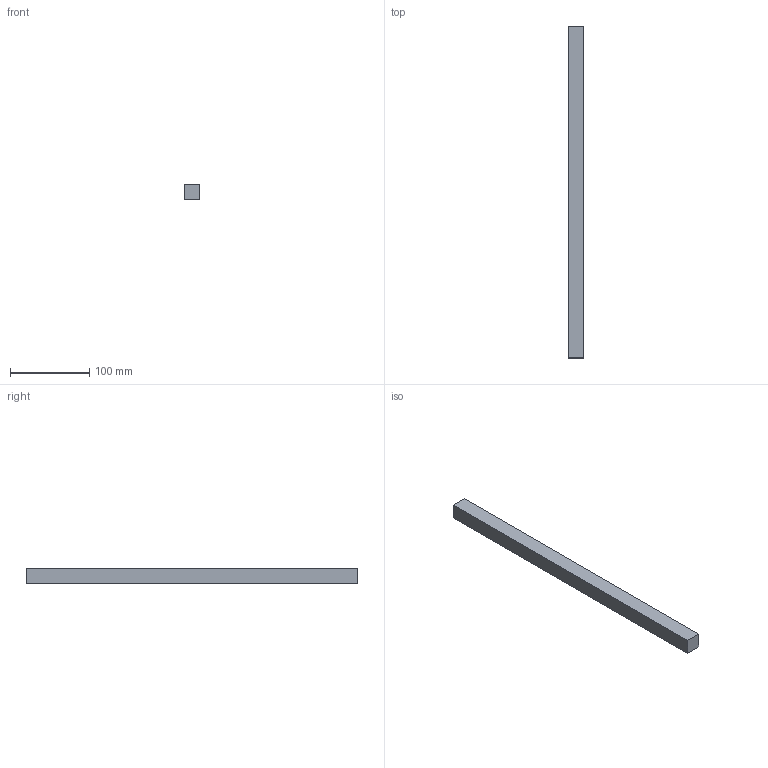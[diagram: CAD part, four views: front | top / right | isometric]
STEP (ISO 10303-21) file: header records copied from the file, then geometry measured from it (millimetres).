
FILE_DESCRIPTION(('Open CASCADE Model'),'2;1');
FILE_NAME('Open CASCADE Shape Model','2026-10-16T18:03:45',('Author'),( 'Open CASCADE'),'Open CASCADE STEP processor 7.8','Open CASCADE 7.8' ,'Unknown');
FILE_SCHEMA(('AUTOMOTIVE_DESIGN { 1 0 10303 214 1 1 1 1 }'));
Length unit declared in the file: millimetre
Products named in the file (1): Open CASCADE STEP translator 7.8 44
Bounding box: 20 x 420 x 20 mm (x, y, z)
Volume: 168000 mm3; surface area: 34400 mm2
Topology: 1 solids, 1 shells, 6 faces, 12 edges, 8 vertices
Faces by surface type: plane 6
Entity records: 322 total; most frequent: CARTESIAN_POINT 51, DIRECTION 50, LINE 36, VECTOR 36, ORIENTED_EDGE 24, PCURVE 24, DEFINITIONAL_REPRESENTATION 24, EDGE_CURVE 12
